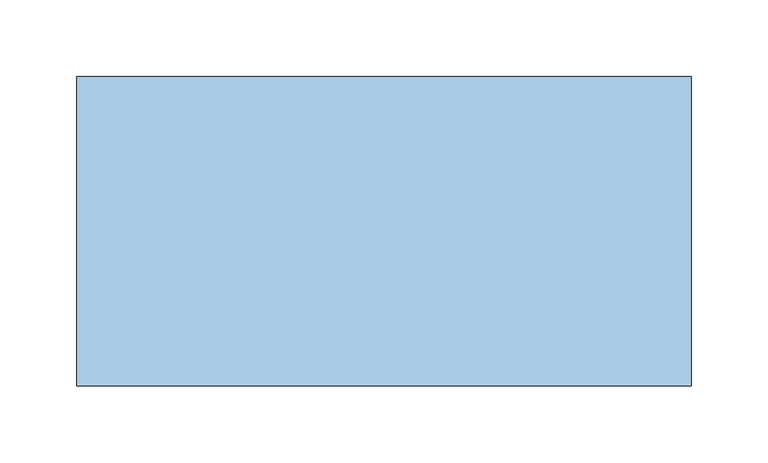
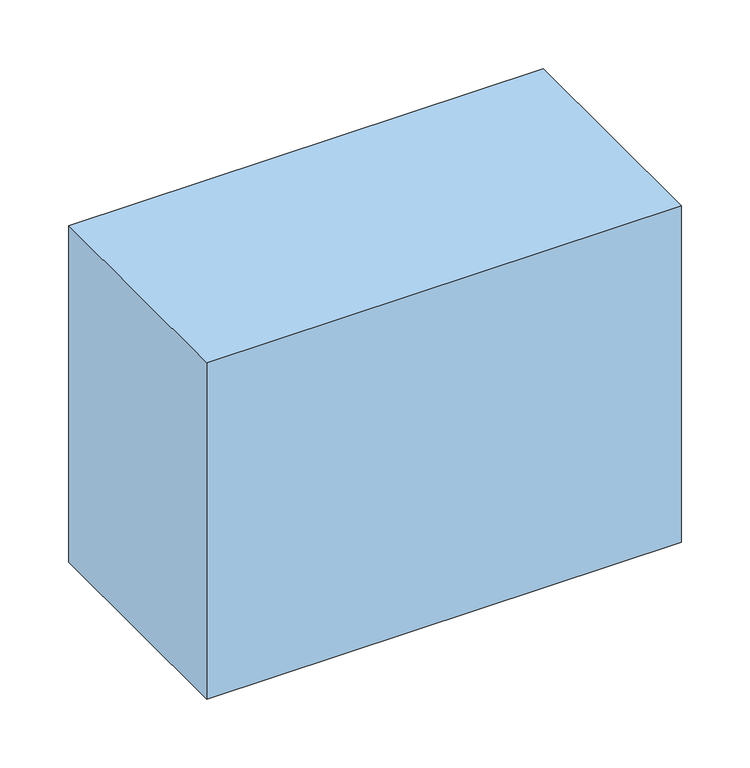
"""IFC4 building model written with IfcOpenShell, lengths in millimetres: window geometry, (WN)_Отверстие_Пол1 : ---."""

from ifc_helpers import new_model, si_unit, frame, origin, place, context, project, spatial, polyline, outline, extrude, source, transform, mapped, element, save


def window_8d913581(model_context):
    return source(origin(), model_context, "Body", "SweptSolid", [
        extrude(outline(polyline([(150.0, -101.4716825), (-250.0, -101.4716825), (-250.0, 100.0), (150.0, 100.0), (150.0, -101.4716825)])), frame((0.0, 0.0, -300.0), z_axis=(0.0, 0.0, 1.0), x_axis=(1.0, 0.0, 0.0)), (0.0, 0.0, 1.0), 300.0),
    ])


if __name__ == "__main__":
    model = new_model("IFC4")
    model_context = context("Model", 3, world=origin())
    ifc_project = project(units=[si_unit("LENGTHUNIT", "METRE", prefix="MILLI")], contexts=[model_context])
    site = spatial("IfcSite", under=ifc_project)
    building = spatial("IfcBuilding", under=site)
    placement = place(None, origin())
    window_shape = window_8d913581(model_context)
    element("IfcWindow", 1, ObjectType="(WN)_Отверстие_Пол1 : ---", at=placement, inside=building, context=model_context, shape_type="MappedRepresentation", body=[
        mapped(window_shape, transform((0.0, 0.0, 0.0), x_axis=(1.0, 0.0, 0.0), y_axis=(0.0, 1.0, 0.0), z_axis=(0.0, 0.0, 1.0))),
    ])
    save(model, "model.ifc")
